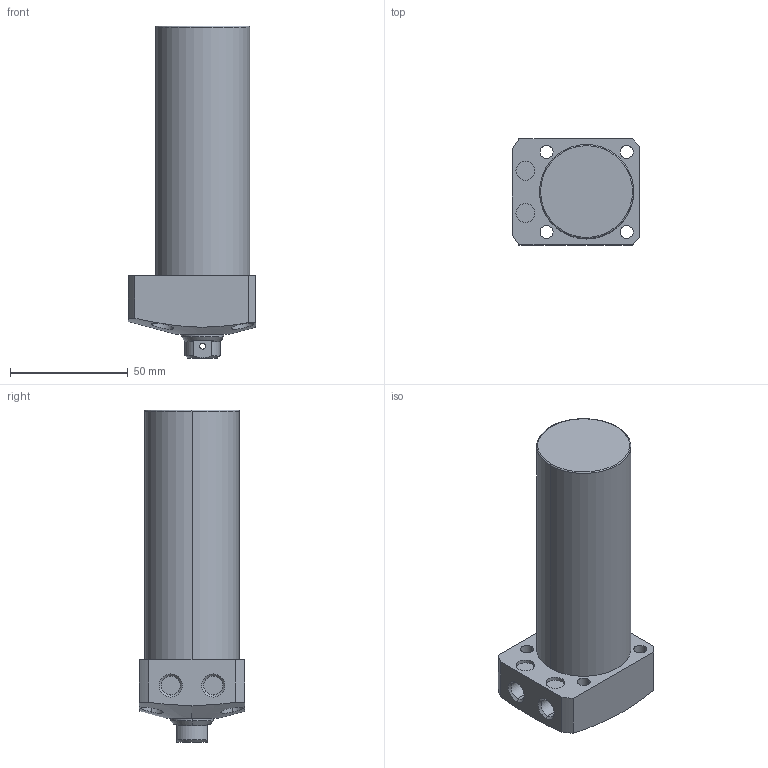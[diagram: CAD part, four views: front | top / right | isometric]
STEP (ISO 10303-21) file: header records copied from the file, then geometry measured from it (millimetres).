
FILE_DESCRIPTION (( 'STEP AP203' ), '1' );
FILE_NAME ('CLL-040CB-080.STEP', '2019-12-21T03:50:21', ( '' ), ( '' ), 'SwSTEP 2.0', 'SolidWorks 2015', '' );
FILE_SCHEMA (( 'CONFIG_CONTROL_DESIGN' ));
Length unit declared in the file: millimetre
Products named in the file (1): CLL-040CB-080
Bounding box: 54 x 45 x 141 mm (x, y, z)
Volume: 183610.8 mm3; surface area: 25453.4 mm2
Topology: 1 solids, 1 shells, 78 faces, 182 edges, 115 vertices
Faces by surface type: cylinder 39, plane 22, cone 15, torus 2
Entity records: 2721 total; most frequent: CARTESIAN_POINT 822, DIRECTION 394, ORIENTED_EDGE 360, EDGE_CURVE 180, AXIS2_PLACEMENT_3D 163, VERTEX_POINT 115, EDGE_LOOP 101, CIRCLE 84
